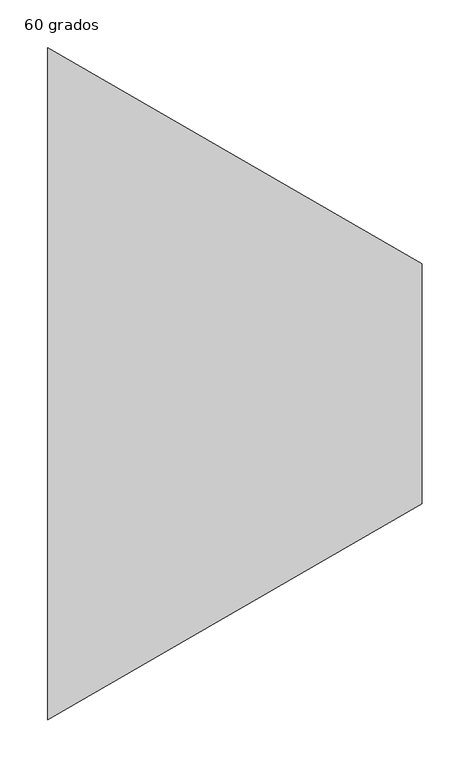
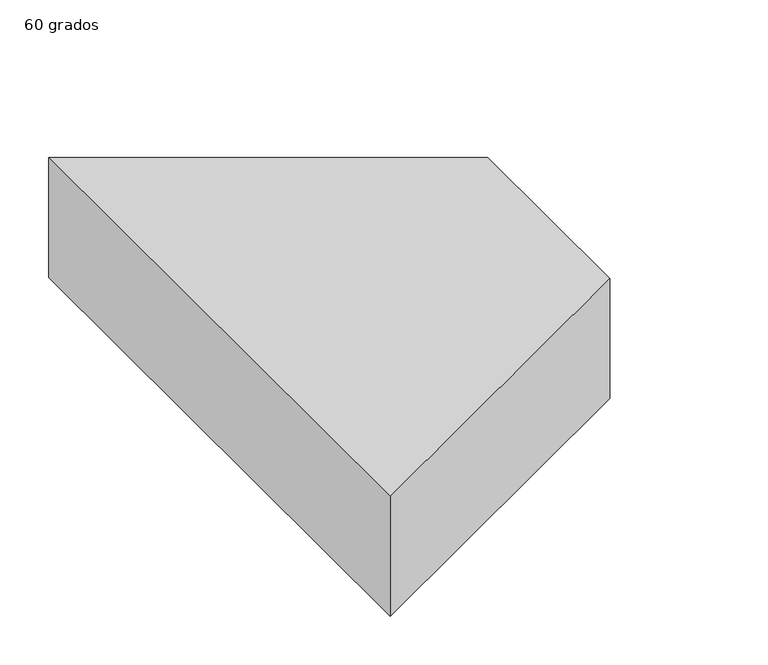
"""IFC4 building model written with IfcOpenShell, lengths in millimetres: duct fitting geometry, M_Transición rectangular - Ángulo : 60 grados."""

from ifc_helpers import new_model, si_unit, frame, origin, place, context, project, spatial, polyline, outline, extrude, source, transform, mapped, element, save


def duct_fitting_60_grados_f564349f(model_context):
    return source(origin(), model_context, "Body", "SweptSolid", [
        extrude(outline(polyline([(0.0, -350.0), (0.0, 350.0), (389.7114317, 125.0), (389.7114317, -125.0), (0.0, -350.0)])), frame((0.0, 0.0, -75.0), z_axis=(0.0, 0.0, 1.0), x_axis=(1.0, 0.0, 0.0)), (0.0, 0.0, 1.0), 150.0),
    ])


if __name__ == "__main__":
    model = new_model("IFC4")
    model_context = context("Model", 3, world=origin())
    ifc_project = project(units=[si_unit("LENGTHUNIT", "METRE", prefix="MILLI")], contexts=[model_context])
    site = spatial("IfcSite", under=ifc_project)
    building = spatial("IfcBuilding", under=site)
    placement = place(None, origin())
    duct_fitting_60_grados_shape = duct_fitting_60_grados_f564349f(model_context)
    element("IfcDuctFitting", 1, ObjectType="M_Transición rectangular - Ángulo : 60 grados", at=placement, inside=building, context=model_context, shape_type="MappedRepresentation", body=[
        mapped(duct_fitting_60_grados_shape, transform((0.0, 0.0, 0.0), x_axis=(1.0, 0.0, 0.0), y_axis=(0.0, 1.0, 0.0), z_axis=(0.0, 0.0, 1.0))),
    ])
    save(model, "model.ifc")
